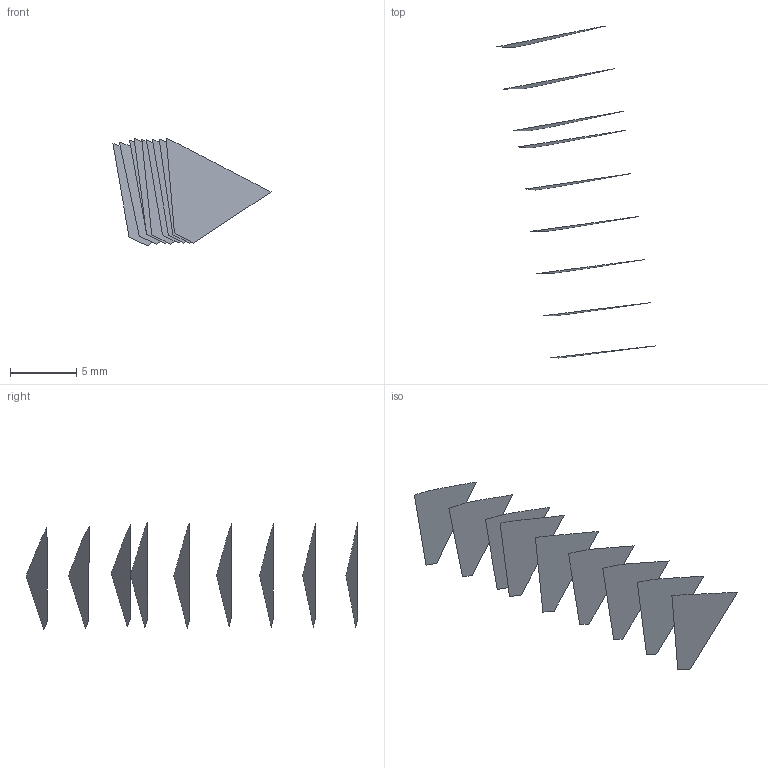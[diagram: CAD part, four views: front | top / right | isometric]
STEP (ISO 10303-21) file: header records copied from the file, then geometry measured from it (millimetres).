
FILE_DESCRIPTION(('FreeCAD Model'),'2;1');
FILE_NAME('Open CASCADE Shape Model','2022-05-22T07:50:30',('FreeCAD'),( 'FreeCAD'),'Open CASCADE STEP processor 7.5','FreeCAD','Unknown');
FILE_SCHEMA(('AUTOMOTIVE_DESIGN { 1 0 10303 214 1 1 1 1 }'));
Length unit declared in the file: millimetre
Products named in the file (10): Open CASCADE STEP translator 7.5 49; Open CASCADE STEP translator 7.5 49.1; Open CASCADE STEP translator 7.5 49.2; Open CASCADE STEP translator 7.5 49.3; Open CASCADE STEP translator 7.5 49.4; Open CASCADE STEP translator 7.5 49.5; Open CASCADE STEP translator 7.5 49.6; Open CASCADE STEP translator 7.5 49.7; Open CASCADE STEP translator 7.5 49.8; Open CASCADE STEP translator 7.5 49.9
Assembly tree (9 placements, depth 2):
  Open CASCADE STEP translator 7.5 49
    Open CASCADE STEP translator 7.5 49.1
    Open CASCADE STEP translator 7.5 49.2
    Open CASCADE STEP translator 7.5 49.3
    Open CASCADE STEP translator 7.5 49.4
    Open CASCADE STEP translator 7.5 49.5
    Open CASCADE STEP translator 7.5 49.6
    Open CASCADE STEP translator 7.5 49.7
    Open CASCADE STEP translator 7.5 49.8
    Open CASCADE STEP translator 7.5 49.9
Bounding box: 11.91 x 24.99 x 8.12 mm (x, y, z)
Surface area: 291.4 mm2 (no closed solid volume)
Topology: 0 solids, 9 shells, 9 faces, 166 edges, 166 vertices
Faces by surface type: bspline 9
Entity records: 2426 total; most frequent: CARTESIAN_POINT 876, B_SPLINE_CURVE_WITH_KNOTS 332, ORIENTED_EDGE 166, EDGE_CURVE 166, VERTEX_POINT 166, SURFACE_CURVE 166, PCURVE 166, DEFINITIONAL_REPRESENTATION 166
